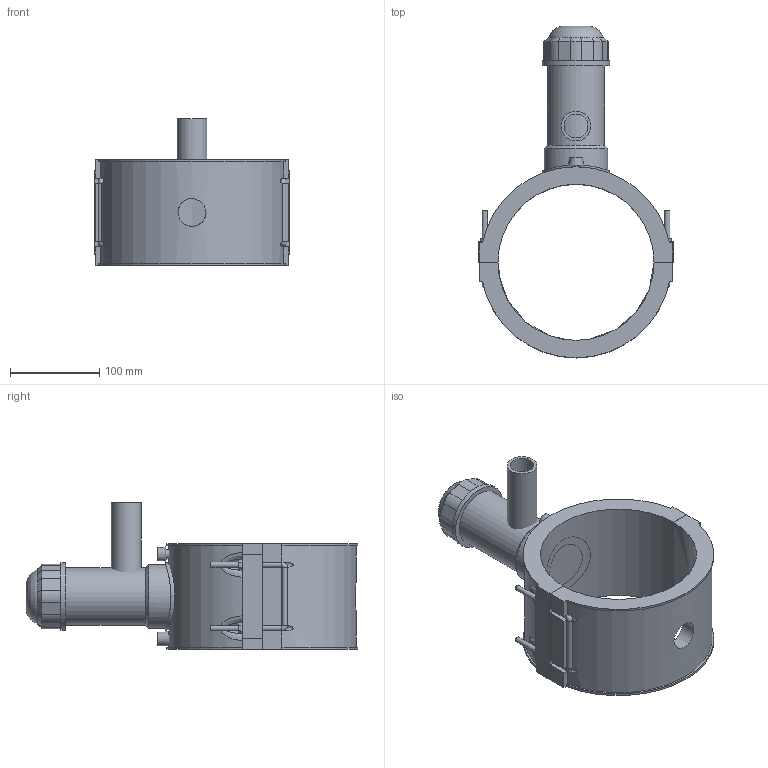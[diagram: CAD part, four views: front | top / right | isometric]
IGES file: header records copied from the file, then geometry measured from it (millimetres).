
Global section: file name: 5963DBP3060010.ipt; native system: Autodesk Inventor 2019; preprocessor: unknown; author: KIM; date: 20210830.101651; units: inch
Bounding box: 217.9 x 371.08 x 163.96 mm (x, y, z)
Volume: 1652706 mm3; surface area: 279331.9 mm2
Topology: 3 solids, 4 shells, 200 faces, 501 edges, 325 vertices
Faces by surface type: plane 125, cylinder 35, revolution 21, cone 15, bspline 4
Full cylindrical faces by diameter (mm): 4 x2, 6 x8, 33.3 x1, 63.78 x1, 71.283 x1, 75.035 x2
